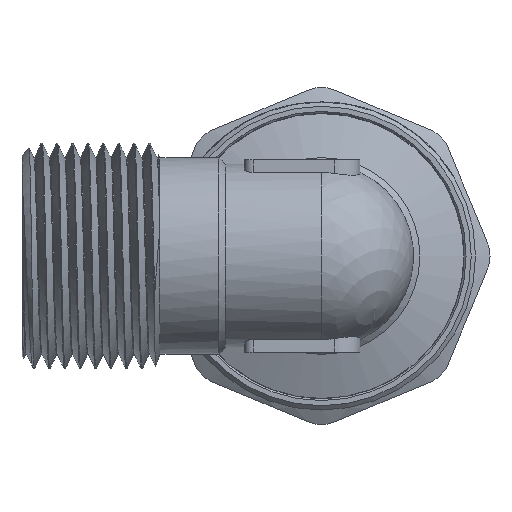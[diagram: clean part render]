
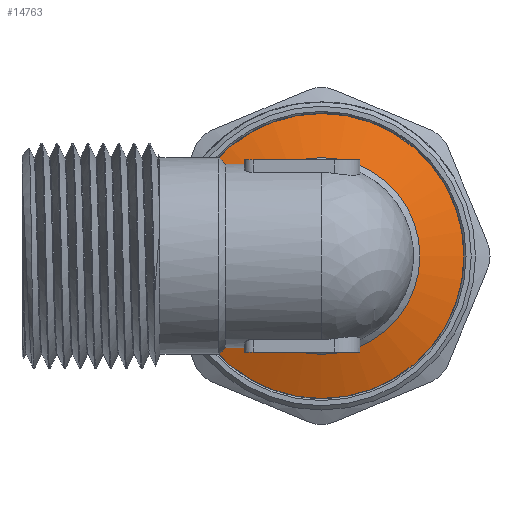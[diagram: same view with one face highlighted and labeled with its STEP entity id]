
A CAD part, left-side view. The second image highlights one B-rep face of the part: STEP entity #14763.
In plain terms, the highlighted conical face has half-angle 70 degrees and reference radius 14.075 mm.
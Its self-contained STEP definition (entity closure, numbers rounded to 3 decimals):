
#770=CONICAL_SURFACE('',#15485,14.075,1.222);
#779=CIRCLE('',#14806,16.65);
#1079=CIRCLE('',#15483,11.5);
#1080=CIRCLE('',#15484,11.5);
#1879=FACE_OUTER_BOUND('',#2734,.T.);
#2734=EDGE_LOOP('',(#13716,#13717,#13718,#13719,#13720));
#4636=LINE('',#34856,#5630);
#5630=VECTOR('',#17878,14.075);
#5652=VERTEX_POINT('',#18057);
#7131=VERTEX_POINT('',#34850);
#7132=VERTEX_POINT('',#34851);
#7162=EDGE_CURVE('',#5652,#5652,#779,.T.);
#9353=EDGE_CURVE('',#7131,#7132,#1079,.T.);
#9354=EDGE_CURVE('',#7132,#7131,#1080,.T.);
#9356=EDGE_CURVE('',#5652,#7132,#4636,.T.);
#13716=ORIENTED_EDGE('',*,*,#7162,.F.);
#13717=ORIENTED_EDGE('',*,*,#9356,.T.);
#13718=ORIENTED_EDGE('',*,*,#9354,.T.);
#13719=ORIENTED_EDGE('',*,*,#9353,.T.);
#13720=ORIENTED_EDGE('',*,*,#9356,.F.);
#14763=ADVANCED_FACE('',(#1879),#770,.T.);
#14806=AXIS2_PLACEMENT_3D('',#18101,#15543,#15544);
#15483=AXIS2_PLACEMENT_3D('',#34852,#17871,#17872);
#15484=AXIS2_PLACEMENT_3D('',#34853,#17873,#17874);
#15485=AXIS2_PLACEMENT_3D('',#34855,#17876,#17877);
#15543=DIRECTION('center_axis',(1.,0.,0.));
#15544=DIRECTION('ref_axis',(0.,0.,-1.));
#17871=DIRECTION('center_axis',(1.,0.,0.));
#17872=DIRECTION('ref_axis',(0.,0.,-1.));
#17873=DIRECTION('center_axis',(1.,0.,0.));
#17874=DIRECTION('ref_axis',(0.,0.,-1.));
#17876=DIRECTION('center_axis',(1.,0.,0.));
#17877=DIRECTION('ref_axis',(0.,-1.,0.));
#17878=DIRECTION('',(-0.342,-0.94,0.));
#18057=CARTESIAN_POINT('',(20.374,16.65,0.));
#18101=CARTESIAN_POINT('Origin',(20.374,0.,
0.));
#34850=CARTESIAN_POINT('',(18.5,-11.5,0.));
#34851=CARTESIAN_POINT('',(18.5,11.5,0.));
#34852=CARTESIAN_POINT('Origin',(18.5,0.,0.));
#34853=CARTESIAN_POINT('Origin',(18.5,0.,0.));
#34855=CARTESIAN_POINT('Origin',(19.437,0.,
0.));
#34856=CARTESIAN_POINT('',(19.437,14.075,0.));
